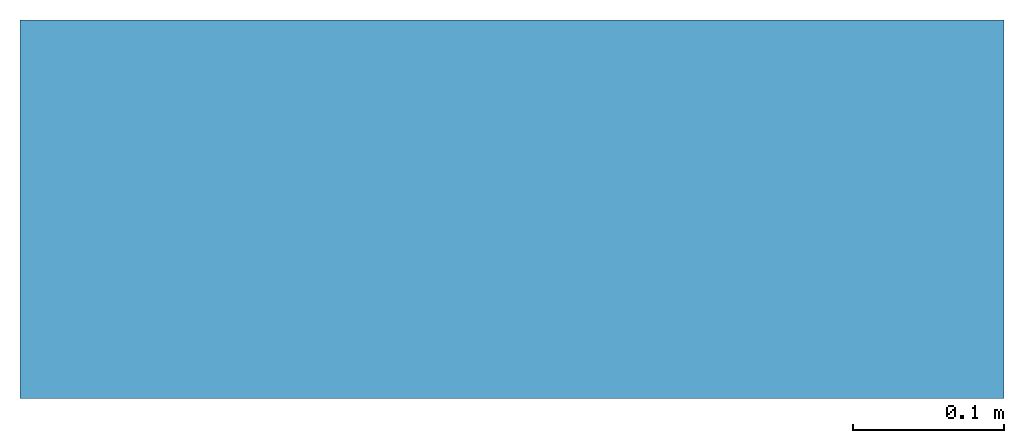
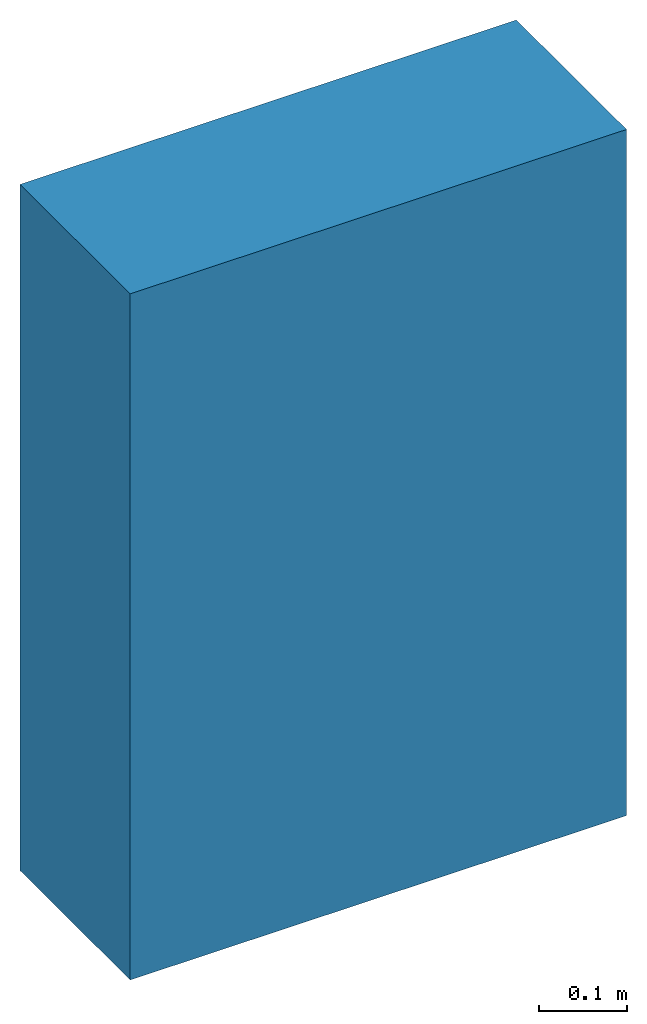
# One storey: 1 wall.
"""IFC2X3 building model written with IfcOpenShell, lengths in millimetres."""

import ifcopenshell
import ifcopenshell.guid

model = None  # the IFC model being written
_history = None  # IfcOwnerHistory: only IFC2X3 demands one
_inside = {}  # id of a spatial element -> (the spatial element, [elements in it])
_under = {}  # id of a project, library or spatial element -> (it, [spatial elements below it])
_declared = {}  # id of a project -> (the project, [libraries it declares])
_typed = {}  # id of a type object -> (the type object, [elements of that type])
_made_of = {}  # id of a material, layer set ... -> (it, [elements and type objects made of it])


def new_model(schema):
    """Start an empty IFC model of exactly this schema.

    Asked for "IFC4X3", IfcOpenShell would pick the latest addendum, in which some entities
    have other attributes; the version numbers below select the first issue.
    IFC2X3 requires an IfcOwnerHistory on every rooted entity: one is made here for all.
    """
    global model, _history
    if schema == "IFC4X3":
        model = ifcopenshell.file(schema_version=(4, 3, 0, 0))
    else:
        model = ifcopenshell.file(schema=schema)
    _inside.clear()
    _under.clear()
    _declared.clear()
    _typed.clear()
    _made_of.clear()
    _history = None
    if model.schema == "IFC2X3":
        org = make("IfcOrganization", Name="unknown")
        user = make(
            "IfcPersonAndOrganization",
            ThePerson=make("IfcPerson", FamilyName="unknown"),
            TheOrganization=org,
        )
        app = make(
            "IfcApplication",
            ApplicationDeveloper=org,
            Version="unknown",
            ApplicationFullName="unknown",
            ApplicationIdentifier="unknown",
        )
        _history = make(
            "IfcOwnerHistory",
            OwningUser=user,
            OwningApplication=app,
            ChangeAction="ADDED",
            CreationDate=0,
        )
    return model


def make(cls, **values):
    """One entity of the class cls with the attributes given. An attribute that is None is left unset."""
    return model.create_entity(
        cls, **{name: value for name, value in values.items() if value is not None}
    )


def entity(cls, *values):
    """Any entity or typed value of the class cls, its attributes in the order of the schema. None: left unset."""
    e = model.create_entity(cls)
    for i, value in enumerate(values):
        if value is not None:
            e[i] = value
    return e


def rooted(cls, **values):
    """An entity with a GlobalId (a new one), such as an element, a storey or a relation."""
    return make(cls, GlobalId=ifcopenshell.guid.new(), OwnerHistory=_history, **values)


def si_unit(unit_type, name, prefix=None):
    """IfcSIUnit, for example si_unit("LENGTHUNIT", "METRE", prefix="MILLI")."""
    return make("IfcSIUnit", UnitType=unit_type, Prefix=prefix, Name=name)


def converted_unit(unit_type, name, factor, base, dimensions=None, offset=None):
    """IfcConversionBasedUnit, such as the inch: factor (a typed value) times the base unit."""
    return make(
        "IfcConversionBasedUnit"
        if offset is None
        else "IfcConversionBasedUnitWithOffset",
        ConversionOffset=offset,
        Dimensions=None
        if dimensions is None
        else entity("IfcDimensionalExponents", *dimensions),
        UnitType=unit_type,
        Name=name,
        ConversionFactor=make(
            "IfcMeasureWithUnit", ValueComponent=factor, UnitComponent=base
        ),
    )


def derived_unit(unit_type, elements):
    """IfcDerivedUnit: a product of units, each with its exponent."""
    return make(
        "IfcDerivedUnit",
        Elements=[
            make("IfcDerivedUnitElement", Unit=unit, Exponent=power)
            for unit, power in elements
        ],
        UnitType=unit_type,
    )


def assignment(units):
    """IfcUnitAssignment: the units of a project."""
    return None if units is None else make("IfcUnitAssignment", Units=units)


def point(xyz):
    """IfcCartesianPoint."""
    return None if xyz is None else make("IfcCartesianPoint", Coordinates=xyz)


def direction(xyz):
    """IfcDirection."""
    return None if xyz is None else make("IfcDirection", DirectionRatios=xyz)


def frame(location, z_axis=None, x_axis=None):
    """IfcAxis2Placement3D, a coordinate frame: its origin and axes. An axis left out is left unset."""
    return make(
        "IfcAxis2Placement3D",
        Location=point(location),
        Axis=direction(z_axis),
        RefDirection=direction(x_axis),
    )


def origin():
    """The frame at (0, 0, 0) with its axes left unset."""
    return frame((0.0, 0.0, 0.0))


def origin_with_axes():
    """The frame at (0, 0, 0) with the z axis (0, 0, 1) and the x axis (1, 0, 0) written out."""
    return frame((0.0, 0.0, 0.0), z_axis=(0.0, 0.0, 1.0), x_axis=(1.0, 0.0, 0.0))


def place(relative_to, where):
    """IfcLocalPlacement: puts the frame where relative to a parent placement (None: the world)."""
    return make(
        "IfcLocalPlacement", PlacementRelTo=relative_to, RelativePlacement=where
    )


def context(
    kind, dimensions, precision=None, world=None, true_north=None, identifier=None
):
    """IfcGeometricRepresentationContext, for example the 3D "Model" context."""
    return make(
        "IfcGeometricRepresentationContext",
        ContextIdentifier=identifier,
        ContextType=kind,
        CoordinateSpaceDimension=dimensions,
        Precision=precision,
        WorldCoordinateSystem=world,
        TrueNorth=true_north,
    )


def subcontext(parent, identifier, kind, view, scale=None):
    """IfcGeometricRepresentationSubContext, for example "Body" below "Model"."""
    return make(
        "IfcGeometricRepresentationSubContext",
        ContextIdentifier=identifier,
        ContextType=kind,
        ParentContext=parent,
        TargetScale=scale,
        TargetView=view,
    )


def project(units=None, contexts=None):
    """IfcProject with its units and contexts."""
    return rooted(
        "IfcProject",
        Name="project",
        RepresentationContexts=contexts,
        UnitsInContext=assignment(units),
    )


def spatial(cls, under=None, at=None, **own):
    """A site, building, storey or space (cls), placed at a placement, below another one or the project."""
    s = rooted(cls, ObjectPlacement=at, **own)
    if under is not None:
        _under.setdefault(under.id(), (under, []))[1].append(s)
    return s


def faces_of(points, faces, orient=None, outer=None):
    """IfcFace entities. A face is a list of loops; a loop is a list of indices into points, from 0.

    orient and outer hold one flag for each loop. By default every Orientation is true, the
    first loop of a face is its IfcFaceOuterBound and the others are IfcFaceBound.
    """
    made = []
    for i, loops in enumerate(faces):
        bounds = []
        for j, loop in enumerate(loops):
            is_outer = j == 0 if outer is None else outer[i][j]
            bounds.append(
                make(
                    "IfcFaceOuterBound" if is_outer else "IfcFaceBound",
                    Bound=make("IfcPolyLoop", Polygon=[points[k] for k in loop]),
                    Orientation=True if orient is None else orient[i][j],
                )
            )
        made.append(make("IfcFace", Bounds=bounds))
    return made


def faceted_brep(points, faces, orient=None, outer=None, voids=None):
    """IfcFacetedBrep: a solid bounded by flat faces; with voids (closed shells), ...WithVoids."""
    shared = [point(p) for p in points]
    hull = make("IfcClosedShell", CfsFaces=faces_of(shared, faces, orient, outer))
    if voids is None:
        return make("IfcFacetedBrep", Outer=hull)
    return make(
        "IfcFacetedBrepWithVoids",
        Outer=hull,
        Voids=[
            make(cls, CfsFaces=faces_of(shared, fs, o, b)) for cls, fs, o, b in voids
        ],
    )


def shape(context_of_items, identifier, shape_type, items):
    """IfcShapeRepresentation: the items that make up one representation, for example the "Body"."""
    return make(
        "IfcShapeRepresentation",
        ContextOfItems=context_of_items,
        RepresentationIdentifier=identifier,
        RepresentationType=shape_type,
        Items=items,
    )


def material(Name=None, Category=None):
    """IfcMaterial."""
    return make("IfcMaterial", Name=Name, Category=Category)


def layer(
    of_material, thickness, ventilated=None, Name=None, Category=None, Priority=None
):
    """IfcMaterialLayer: one layer of a wall or slab, of a material (None: an air gap)."""
    return make(
        "IfcMaterialLayer",
        Material=of_material,
        LayerThickness=thickness,
        IsVentilated=ventilated,
        Name=Name,
        Category=Category,
        Priority=Priority,
    )


def layer_set(layers, Name=None):
    """IfcMaterialLayerSet."""
    return make("IfcMaterialLayerSet", MaterialLayers=layers, LayerSetName=Name)


def made_of(thing, what):
    """Note that an element or type object is made of a material, layer set ...; save() writes the relation."""
    if what is not None:
        _made_of.setdefault(what.id(), (what, []))[1].append(thing)
    return thing


def type_object(cls, material=None, **own):
    """A type object (cls), such as IfcWallType, which elements share."""
    return made_of(rooted(cls, **own), material)


def element(
    cls,
    number,
    at=None,
    inside=None,
    cuts=None,
    type_object=None,
    material=None,
    context=None,
    identifier="Body",
    shape_type=None,
    held_by="IfcProductDefinitionShape",
    body=None,
    shapes=None,
    **own,
):
    """One element of the class cls, such as IfcWall. Its Tag is "e" and its number.

    at: its placement. inside: the storey or other place that contains it. cuts: it is an
    opening in that element (IfcRelVoidsElement). A single representation is given by context,
    identifier, shape_type and body (its items); several are given by shapes. held_by: the class
    of the entity that holds the representations. save() writes the other relations.
    """
    e = rooted(cls, Tag="e%d" % number, ObjectPlacement=at, **own)
    if body is not None:
        shapes = [shape(context, identifier, shape_type, body)]
    if shapes is not None:
        e.Representation = make(held_by, Representations=shapes)
    if inside is not None:
        _inside.setdefault(inside.id(), (inside, []))[1].append(e)
    if cuts is not None:
        rooted(
            "IfcRelVoidsElement", RelatingBuildingElement=cuts, RelatedOpeningElement=e
        )
    if type_object is not None:
        _typed.setdefault(type_object.id(), (type_object, []))[1].append(e)
    return made_of(e, material)


def aggregate(whole, parts):
    """IfcRelAggregates: a whole, such as a stair, and the parts it consists of."""
    return rooted("IfcRelAggregates", RelatingObject=whole, RelatedObjects=parts)


def save(model, path):
    """Write the relations noted so far, then the file.

    IfcRelAggregates (storeys below a building ...), IfcRelContainedInSpatialStructure (elements
    in a storey), IfcRelDefinesByType, IfcRelAssociatesMaterial and IfcRelDeclares: one each for
    every whole, place, type object, material and project.
    """
    for whole, parts in _under.values():
        aggregate(whole, parts)
    for where, things in _inside.values():
        rooted(
            "IfcRelContainedInSpatialStructure",
            RelatedElements=things,
            RelatingStructure=where,
        )
    for kind, things in _typed.values():
        rooted("IfcRelDefinesByType", RelatedObjects=things, RelatingType=kind)
    for what, things in _made_of.values():
        rooted("IfcRelAssociatesMaterial", RelatedObjects=things, RelatingMaterial=what)
    for by, libraries in _declared.values():
        rooted("IfcRelDeclares", RelatingContext=by, RelatedDefinitions=libraries)
    model.write(path)


model = new_model("IFC2X3")

# Units and contexts
model_context = context("Model", 3, precision=0.01, world=origin(), true_north=direction((6.12303176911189e-17, 1.0)))
plan_context = context("Plan", 3, precision=1e-05, world=origin_with_axes())
body_context = subcontext(model_context, "Body", "Model", "MODEL_VIEW")
ifc_project = project(units=[converted_unit("PLANEANGLEUNIT", "DEGREE", entity("IfcPositiveLengthMeasure", 0.0174532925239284), si_unit("PLANEANGLEUNIT", "RADIAN"), dimensions=[0, 0, 0, 0, 0, 0, 0]), si_unit("AREAUNIT", "SQUARE_METRE"), si_unit("LENGTHUNIT", "METRE", prefix="MILLI"), si_unit("MASSUNIT", "GRAM", prefix="KILO"), si_unit("POWERUNIT", "WATT"), si_unit("PRESSUREUNIT", "PASCAL"), si_unit("FORCEUNIT", "NEWTON", prefix="KILO"), si_unit("ELECTRICVOLTAGEUNIT", "VOLT"), si_unit("ELECTRICCURRENTUNIT", "AMPERE"), si_unit("THERMODYNAMICTEMPERATUREUNIT", "DEGREE_CELSIUS"), si_unit("TIMEUNIT", "SECOND"), si_unit("VOLUMEUNIT", "CUBIC_METRE"), derived_unit("LINEARVELOCITYUNIT", [(si_unit("LENGTHUNIT", "METRE"), 1), (si_unit("TIMEUNIT", "SECOND"), -1)]), derived_unit("VOLUMETRICFLOWRATEUNIT", [(si_unit("VOLUMEUNIT", "CUBIC_METRE"), 1), (si_unit("TIMEUNIT", "SECOND"), -1)]), derived_unit("THERMALTRANSMITTANCEUNIT", [(si_unit("POWERUNIT", "WATT"), 1), (si_unit("THERMODYNAMICTEMPERATUREUNIT", "KELVIN"), -1), (si_unit("AREAUNIT", "SQUARE_METRE"), -1)]), derived_unit("SOUNDPRESSUREUNIT", [(si_unit("PRESSUREUNIT", "PASCAL"), 1)])], contexts=[model_context, plan_context])

# Site, building, storey
site_placement = place(None, frame((2314154.5009392, 1029894.10887124, 0.0), z_axis=(0.0, 0.0, 1.0), x_axis=(1.0, 0.0, 0.0)))
site = spatial("IfcSite", under=ifc_project, at=site_placement, Name="Default", CompositionType="ELEMENT")
building_placement = place(site_placement, origin_with_axes())
building = spatial("IfcBuilding", under=site, at=building_placement, CompositionType="ELEMENT")
storey_placement = place(building_placement, frame((0.0, 0.0, 6250.0), z_axis=(0.0, 0.0, 1.0), x_axis=(1.0, 0.0, 0.0)))
storey = spatial("IfcBuildingStorey", under=building, at=storey_placement, Name="U01 Hovedetasje", CompositionType="ELEMENT", Elevation=6250.0)

# Wall
ifc_material = material(Name="Existing - Bridget key")
ifc_layer = layer(ifc_material, 250.0)
ifc_layer_set = layer_set([ifc_layer], Name="Basic Wall:V_Existing 250mm")
wall_type = type_object("IfcWallType", Name="Basic Wall:V_Existing 250mm", PredefinedType="STANDARD", material=ifc_layer_set)
wall_placement = place(storey_placement, frame((317641.133946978, -41274.4514104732, 1320.0), z_axis=(0.0, 0.0, 1.0), x_axis=(-1.0, 0.0, 0.0)))
element("IfcWall", 1, at=wall_placement, inside=storey, type_object=wall_type, Name="Basic Wall:V_Existing 250mm", ObjectType="Basic Wall:V_Existing 250mm", context=body_context, shape_type="Brep", body=[
    faceted_brep([(5950.00000254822, 124.999999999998, 1750.0), (5950.00000254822, -124.999999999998, 1750.0), (5950.00000254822, -124.999999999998, 2700.0), (5950.00000254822, 124.999999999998, 2700.0), (5299.9999996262, 124.999999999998, 2700.0), (5299.9999996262, 124.999999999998, 1750.0), (5299.9999996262, -124.999999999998, 1750.0), (5299.9999996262, -124.999999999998, 2700.0)], [[[0, 1, 2, 3]], [[4, 5, 0, 3]], [[1, 6, 7, 2]], [[7, 4, 3, 2]], [[5, 4, 7, 6]], [[6, 1, 0, 5]]], orient=[[False], [False], [False], [False], [False], [False]]),
])

save(model, "model.ifc")
